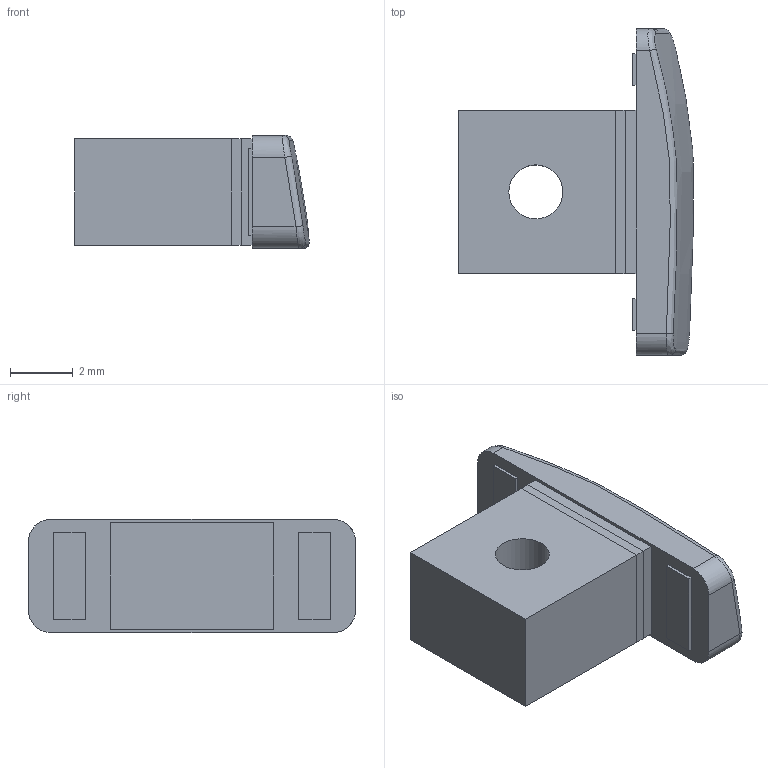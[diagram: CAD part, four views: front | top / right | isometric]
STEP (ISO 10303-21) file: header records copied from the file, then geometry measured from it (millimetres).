
FILE_DESCRIPTION(('Open CASCADE Model'),'2;1');
FILE_NAME('Open CASCADE Shape Model','2026-10-17T16:39:52',('Author'),( 'Open CASCADE'),'Open CASCADE STEP processor 7.9','Open CASCADE 7.9' ,'Unknown');
FILE_SCHEMA(('AUTOMOTIVE_DESIGN { 1 0 10303 214 1 1 1 1 }'));
Length unit declared in the file: millimetre
Products named in the file (1): Open CASCADE STEP translator 7.9 31
Bounding box: 7.48 x 10.4 x 3.6 mm (x, y, z)
Volume: 145.8 mm3; surface area: 221 mm2
Topology: 1 solids, 1 shells, 42 faces, 95 edges, 58 vertices
Faces by surface type: plane 28, bspline 9, cylinder 5
Full cylindrical faces by diameter (mm): 1.72 x1
Entity records: 11290 total; most frequent: CARTESIAN_POINT 9531, DIRECTION 269, ORIENTED_EDGE 190, PCURVE 190, DEFINITIONAL_REPRESENTATION 190, LINE 185, VECTOR 185, EDGE_CURVE 95
